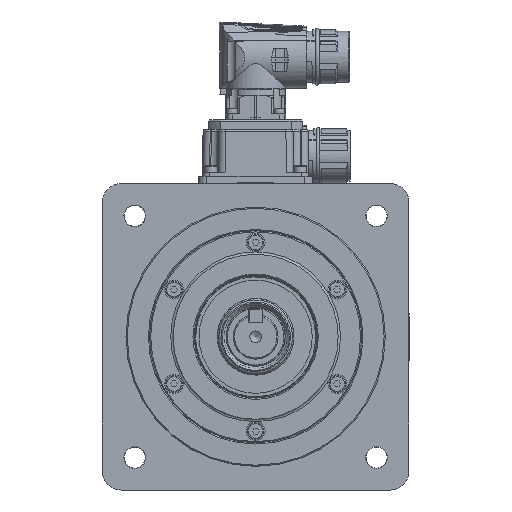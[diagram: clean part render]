
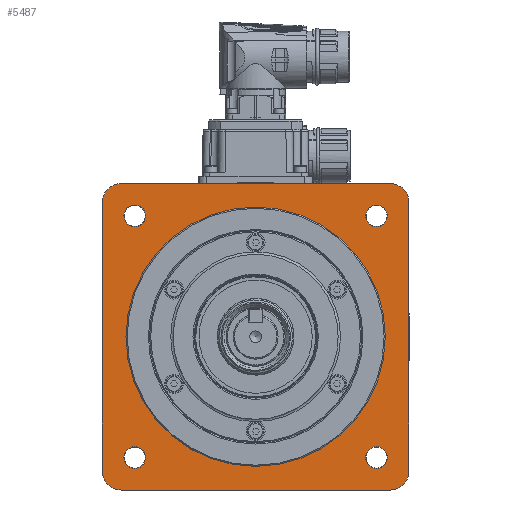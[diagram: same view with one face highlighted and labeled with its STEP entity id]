
A CAD part, front view. The second image highlights one B-rep face of the part: STEP entity #5487.
In plain terms, the highlighted planar face has unit normal (0, -1, 0).
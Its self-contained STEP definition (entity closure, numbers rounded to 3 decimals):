
#5487 = ADVANCED_FACE( '', ( #12493, #12494, #12495, #12496, #12497, #12498 ), #12499, .F. );
#12493 = FACE_BOUND( '', #27295, .T. );
#12494 = FACE_OUTER_BOUND( '', #27296, .T. );
#12495 = FACE_BOUND( '', #27297, .T. );
#12496 = FACE_BOUND( '', #27298, .T. );
#12497 = FACE_BOUND( '', #27299, .T. );
#12498 = FACE_BOUND( '', #27300, .T. );
#12499 = PLANE( '', #27301 );
#27295 = EDGE_LOOP( '', ( #48425 ) );
#27296 = EDGE_LOOP( '', ( #48426, #48427, #48428, #48429, #48430, #48431, #48432, #48433 ) );
#27297 = EDGE_LOOP( '', ( #48434 ) );
#27298 = EDGE_LOOP( '', ( #48435 ) );
#27299 = EDGE_LOOP( '', ( #48436 ) );
#27300 = EDGE_LOOP( '', ( #48437 ) );
#27301 = AXIS2_PLACEMENT_3D( '', #48438, #48439, #48440 );
#48425 = ORIENTED_EDGE( '', *, *, #61417, .F. );
#48426 = ORIENTED_EDGE( '', *, *, #61953, .F. );
#48427 = ORIENTED_EDGE( '', *, *, #60703, .T. );
#48428 = ORIENTED_EDGE( '', *, *, #63676, .F. );
#48429 = ORIENTED_EDGE( '', *, *, #61547, .T. );
#48430 = ORIENTED_EDGE( '', *, *, #63399, .F. );
#48431 = ORIENTED_EDGE( '', *, *, #63841, .T. );
#48432 = ORIENTED_EDGE( '', *, *, #59295, .F. );
#48433 = ORIENTED_EDGE( '', *, *, #63842, .T. );
#48434 = ORIENTED_EDGE( '', *, *, #57891, .F. );
#48435 = ORIENTED_EDGE( '', *, *, #62417, .F. );
#48436 = ORIENTED_EDGE( '', *, *, #57848, .F. );
#48437 = ORIENTED_EDGE( '', *, *, #63576, .F. );
#48438 = CARTESIAN_POINT( '', ( 0., -39.51, 55. ) );
#48439 = DIRECTION( '', ( 0., 1., 0. ) );
#48440 = DIRECTION( '', ( 0., 0., 1. ) );
#57848 = EDGE_CURVE( '', #67331, #67331, #67332, .F. );
#57891 = EDGE_CURVE( '', #67407, #67407, #67408, .F. );
#59295 = EDGE_CURVE( '', #69847, #69850, #69851, .F. );
#60703 = EDGE_CURVE( '', #72150, #72148, #72151, .T. );
#61417 = EDGE_CURVE( '', #73255, #73255, #73256, .T. );
#61547 = EDGE_CURVE( '', #73445, #73443, #73446, .T. );
#61953 = EDGE_CURVE( '', #72150, #74051, #74052, .F. );
#62417 = EDGE_CURVE( '', #74730, #74730, #74731, .F. );
#63399 = EDGE_CURVE( '', #76095, #73443, #76098, .F. );
#63576 = EDGE_CURVE( '', #76328, #76328, #76329, .F. );
#63676 = EDGE_CURVE( '', #73445, #72148, #76464, .F. );
#63841 = EDGE_CURVE( '', #76095, #69850, #76674, .T. );
#63842 = EDGE_CURVE( '', #69847, #74051, #76675, .T. );
#67331 = VERTEX_POINT( '', #80946 );
#67332 = CIRCLE( '', #80947, 4.6 );
#67407 = VERTEX_POINT( '', #81119 );
#67408 = CIRCLE( '', #81120, 4.6 );
#69847 = VERTEX_POINT( '', #86290 );
#69850 = VERTEX_POINT( '', #86294 );
#69851 = CIRCLE( '', #86295, 8. );
#72148 = VERTEX_POINT( '', #91055 );
#72150 = VERTEX_POINT( '', #91058 );
#72151 = LINE( '', #91059, #91060 );
#73255 = VERTEX_POINT( '', #93967 );
#73256 = CIRCLE( '', #93968, 55. );
#73443 = VERTEX_POINT( '', #94303 );
#73445 = VERTEX_POINT( '', #94306 );
#73446 = LINE( '', #94307, #94308 );
#74051 = VERTEX_POINT( '', #95577 );
#74052 = CIRCLE( '', #95578, 8. );
#74730 = VERTEX_POINT( '', #97434 );
#74731 = CIRCLE( '', #97435, 4.6 );
#76095 = VERTEX_POINT( '', #100651 );
#76098 = CIRCLE( '', #100655, 8. );
#76328 = VERTEX_POINT( '', #101245 );
#76329 = CIRCLE( '', #101246, 4.6 );
#76464 = CIRCLE( '', #101629, 8. );
#76674 = LINE( '', #102067, #102068 );
#76675 = LINE( '', #102069, #102070 );
#80946 = CARTESIAN_POINT( '', ( 51.265, -39.51, -46.665 ) );
#80947 = AXIS2_PLACEMENT_3D( '', #109998, #109999, #110000 );
#81119 = CARTESIAN_POINT( '', ( -51.265, -39.51, 55.866 ) );
#81120 = AXIS2_PLACEMENT_3D( '', #110050, #110051, #110052 );
#86290 = CARTESIAN_POINT( '', ( 57., -39.51, 65. ) );
#86294 = CARTESIAN_POINT( '', ( 65., -39.51, 57. ) );
#86295 = AXIS2_PLACEMENT_3D( '', #111910, #111911, #111912 );
#91055 = CARTESIAN_POINT( '', ( -65., -39.51, -57. ) );
#91058 = CARTESIAN_POINT( '', ( -65., -39.51, 57. ) );
#91059 = CARTESIAN_POINT( '', ( -65., -39.51, 65. ) );
#91060 = VECTOR( '', #113588, 1000. );
#93967 = CARTESIAN_POINT( '', ( 0., -39.51, -55. ) );
#93968 = AXIS2_PLACEMENT_3D( '', #114387, #114388, #114389 );
#94303 = CARTESIAN_POINT( '', ( 57., -39.51, -65. ) );
#94306 = CARTESIAN_POINT( '', ( -57., -39.51, -65. ) );
#94307 = CARTESIAN_POINT( '', ( -65., -39.51, -65. ) );
#94308 = VECTOR( '', #114541, 1000. );
#95577 = CARTESIAN_POINT( '', ( -57., -39.51, 65. ) );
#95578 = AXIS2_PLACEMENT_3D( '', #115027, #115028, #115029 );
#97434 = CARTESIAN_POINT( '', ( -51.265, -39.51, -46.665 ) );
#97435 = AXIS2_PLACEMENT_3D( '', #115508, #115509, #115510 );
#100651 = CARTESIAN_POINT( '', ( 65., -39.51, -57. ) );
#100655 = AXIS2_PLACEMENT_3D( '', #116541, #116542, #116543 );
#101245 = CARTESIAN_POINT( '', ( 51.265, -39.51, 55.866 ) );
#101246 = AXIS2_PLACEMENT_3D( '', #116722, #116723, #116724 );
#101629 = AXIS2_PLACEMENT_3D( '', #116818, #116819, #116820 );
#102067 = CARTESIAN_POINT( '', ( 65., -39.51, -65. ) );
#102068 = VECTOR( '', #116985, 1000. );
#102069 = CARTESIAN_POINT( '', ( 65., -39.51, 65. ) );
#102070 = VECTOR( '', #116986, 1000. );
#109998 = CARTESIAN_POINT( '', ( 51.265, -39.51, -51.265 ) );
#109999 = DIRECTION( '', ( 0., 1., 0. ) );
#110000 = DIRECTION( '', ( 0., 0., 1. ) );
#110050 = CARTESIAN_POINT( '', ( -51.265, -39.51, 51.265 ) );
#110051 = DIRECTION( '', ( 0., 1., 0. ) );
#110052 = DIRECTION( '', ( 0., 0., 1. ) );
#111910 = CARTESIAN_POINT( '', ( 57., -39.51, 57. ) );
#111911 = DIRECTION( '', ( 0., -1., 0. ) );
#111912 = DIRECTION( '', ( 0., 0., -1. ) );
#113588 = DIRECTION( '', ( 0., 0., -1. ) );
#114387 = CARTESIAN_POINT( '', ( 0., -39.51, 0. ) );
#114388 = DIRECTION( '', ( 0., -1., 0. ) );
#114389 = DIRECTION( '', ( 0., 0., -1. ) );
#114541 = DIRECTION( '', ( 1., 0., 0. ) );
#115027 = CARTESIAN_POINT( '', ( -57., -39.51, 57. ) );
#115028 = DIRECTION( '', ( 0., -1., 0. ) );
#115029 = DIRECTION( '', ( 0., 0., -1. ) );
#115508 = CARTESIAN_POINT( '', ( -51.265, -39.51, -51.265 ) );
#115509 = DIRECTION( '', ( 0., 1., 0. ) );
#115510 = DIRECTION( '', ( 0., 0., 1. ) );
#116541 = CARTESIAN_POINT( '', ( 57., -39.51, -57. ) );
#116542 = DIRECTION( '', ( 0., -1., 0. ) );
#116543 = DIRECTION( '', ( 0., 0., -1. ) );
#116722 = CARTESIAN_POINT( '', ( 51.265, -39.51, 51.265 ) );
#116723 = DIRECTION( '', ( 0., 1., 0. ) );
#116724 = DIRECTION( '', ( 0., 0., 1. ) );
#116818 = CARTESIAN_POINT( '', ( -57., -39.51, -57. ) );
#116819 = DIRECTION( '', ( 0., -1., 0. ) );
#116820 = DIRECTION( '', ( 0., 0., -1. ) );
#116985 = DIRECTION( '', ( 0., 0., 1. ) );
#116986 = DIRECTION( '', ( -1., 0., 0. ) );
